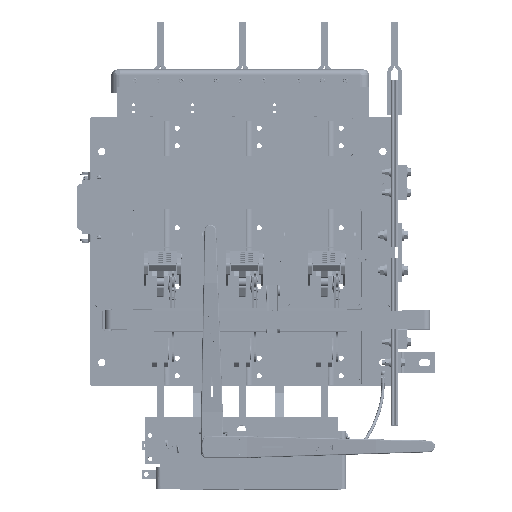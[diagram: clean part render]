
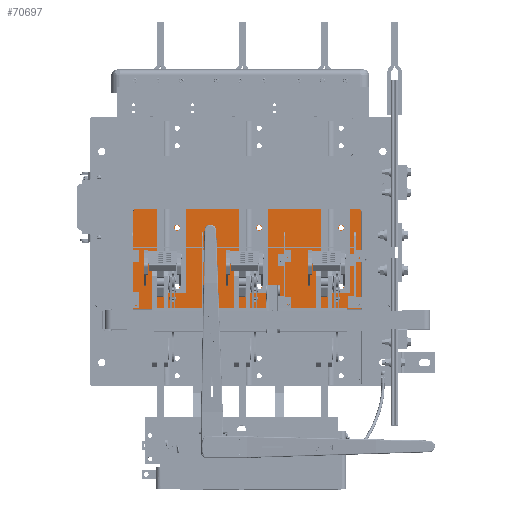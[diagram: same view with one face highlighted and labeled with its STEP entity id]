
A CAD part, top view. The second image highlights one B-rep face of the part: STEP entity #70697.
In plain terms, the highlighted planar face has unit normal (0, 0, 1).
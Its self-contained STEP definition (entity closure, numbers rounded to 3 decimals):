
#3090=FACE_BOUND('',#11374,.T.);
#3091=FACE_BOUND('',#11375,.T.);
#3092=FACE_BOUND('',#11376,.T.);
#3093=FACE_BOUND('',#11377,.T.);
#3094=FACE_BOUND('',#11378,.T.);
#3095=FACE_BOUND('',#11379,.T.);
#3096=FACE_BOUND('',#11380,.T.);
#3097=FACE_BOUND('',#11381,.T.);
#3098=FACE_BOUND('',#11382,.T.);
#3099=FACE_BOUND('',#11383,.T.);
#3100=FACE_BOUND('',#11384,.T.);
#3101=FACE_BOUND('',#11385,.T.);
#3102=FACE_BOUND('',#11386,.T.);
#3103=FACE_BOUND('',#11387,.T.);
#3104=FACE_BOUND('',#11388,.T.);
#3105=FACE_BOUND('',#11389,.T.);
#3106=FACE_BOUND('',#11390,.T.);
#4683=PLANE('',#77426);
#7194=FACE_OUTER_BOUND('',#11373,.T.);
#11373=EDGE_LOOP('',(#52726,#52727,#52728,#52729,#52730,#52731));
#11374=EDGE_LOOP('',(#52732));
#11375=EDGE_LOOP('',(#52733));
#11376=EDGE_LOOP('',(#52734));
#11377=EDGE_LOOP('',(#52735));
#11378=EDGE_LOOP('',(#52736));
#11379=EDGE_LOOP('',(#52737));
#11380=EDGE_LOOP('',(#52738));
#11381=EDGE_LOOP('',(#52739));
#11382=EDGE_LOOP('',(#52740));
#11383=EDGE_LOOP('',(#52741));
#11384=EDGE_LOOP('',(#52742));
#11385=EDGE_LOOP('',(#52743));
#11386=EDGE_LOOP('',(#52744));
#11387=EDGE_LOOP('',(#52745));
#11388=EDGE_LOOP('',(#52746));
#11389=EDGE_LOOP('',(#52747));
#11390=EDGE_LOOP('',(#52748));
#16319=CIRCLE('',#77209,0.07);
#16321=CIRCLE('',#77213,0.07);
#16323=CIRCLE('',#77217,0.07);
#16325=CIRCLE('',#77221,0.07);
#16327=CIRCLE('',#77225,0.07);
#16329=CIRCLE('',#77229,0.07);
#16331=CIRCLE('',#77233,0.07);
#16333=CIRCLE('',#77237,0.07);
#16337=CIRCLE('',#77245,0.219);
#16338=CIRCLE('',#77247,0.219);
#16339=CIRCLE('',#77249,0.219);
#16340=CIRCLE('',#77251,0.219);
#16341=CIRCLE('',#77253,0.219);
#16342=CIRCLE('',#77255,0.219);
#16343=CIRCLE('',#77257,0.219);
#16344=CIRCLE('',#77259,0.219);
#16345=CIRCLE('',#77261,0.219);
#16424=CIRCLE('',#77420,0.237);
#16425=CIRCLE('',#77425,0.237);
#20364=LINE('',#110155,#26223);
#20368=LINE('',#110164,#26227);
#20370=LINE('',#110168,#26229);
#20372=LINE('',#110172,#26231);
#26223=VECTOR('',#88579,0.394);
#26227=VECTOR('',#88589,0.394);
#26229=VECTOR('',#88593,0.394);
#26231=VECTOR('',#88597,0.394);
#32300=VERTEX_POINT('',#109696);
#32302=VERTEX_POINT('',#109703);
#32304=VERTEX_POINT('',#109710);
#32306=VERTEX_POINT('',#109717);
#32308=VERTEX_POINT('',#109724);
#32310=VERTEX_POINT('',#109731);
#32312=VERTEX_POINT('',#109738);
#32314=VERTEX_POINT('',#109745);
#32318=VERTEX_POINT('',#109759);
#32319=VERTEX_POINT('',#109763);
#32320=VERTEX_POINT('',#109767);
#32321=VERTEX_POINT('',#109771);
#32322=VERTEX_POINT('',#109775);
#32323=VERTEX_POINT('',#109779);
#32324=VERTEX_POINT('',#109783);
#32325=VERTEX_POINT('',#109787);
#32326=VERTEX_POINT('',#109791);
#32438=VERTEX_POINT('',#110153);
#32439=VERTEX_POINT('',#110154);
#32440=VERTEX_POINT('',#110159);
#32441=VERTEX_POINT('',#110163);
#32442=VERTEX_POINT('',#110167);
#32443=VERTEX_POINT('',#110171);
#39750=EDGE_CURVE('',#32300,#32300,#16319,.T.);
#39753=EDGE_CURVE('',#32302,#32302,#16321,.T.);
#39756=EDGE_CURVE('',#32304,#32304,#16323,.T.);
#39759=EDGE_CURVE('',#32306,#32306,#16325,.T.);
#39762=EDGE_CURVE('',#32308,#32308,#16327,.T.);
#39765=EDGE_CURVE('',#32310,#32310,#16329,.T.);
#39768=EDGE_CURVE('',#32312,#32312,#16331,.T.);
#39771=EDGE_CURVE('',#32314,#32314,#16333,.T.);
#39777=EDGE_CURVE('',#32318,#32318,#16337,.T.);
#39779=EDGE_CURVE('',#32319,#32319,#16338,.T.);
#39781=EDGE_CURVE('',#32320,#32320,#16339,.T.);
#39783=EDGE_CURVE('',#32321,#32321,#16340,.T.);
#39785=EDGE_CURVE('',#32322,#32322,#16341,.T.);
#39787=EDGE_CURVE('',#32323,#32323,#16342,.T.);
#39789=EDGE_CURVE('',#32324,#32324,#16343,.T.);
#39791=EDGE_CURVE('',#32325,#32325,#16344,.T.);
#39793=EDGE_CURVE('',#32326,#32326,#16345,.T.);
#39964=EDGE_CURVE('',#32438,#32439,#20364,.T.);
#39967=EDGE_CURVE('',#32439,#32440,#16424,.T.);
#39969=EDGE_CURVE('',#32440,#32441,#20368,.T.);
#39971=EDGE_CURVE('',#32441,#32442,#20370,.T.);
#39973=EDGE_CURVE('',#32442,#32443,#20372,.T.);
#39975=EDGE_CURVE('',#32443,#32438,#16425,.T.);
#52726=ORIENTED_EDGE('',*,*,#39964,.F.);
#52727=ORIENTED_EDGE('',*,*,#39975,.F.);
#52728=ORIENTED_EDGE('',*,*,#39973,.F.);
#52729=ORIENTED_EDGE('',*,*,#39971,.F.);
#52730=ORIENTED_EDGE('',*,*,#39969,.F.);
#52731=ORIENTED_EDGE('',*,*,#39967,.F.);
#52732=ORIENTED_EDGE('',*,*,#39750,.T.);
#52733=ORIENTED_EDGE('',*,*,#39753,.T.);
#52734=ORIENTED_EDGE('',*,*,#39756,.T.);
#52735=ORIENTED_EDGE('',*,*,#39759,.T.);
#52736=ORIENTED_EDGE('',*,*,#39762,.T.);
#52737=ORIENTED_EDGE('',*,*,#39765,.T.);
#52738=ORIENTED_EDGE('',*,*,#39768,.T.);
#52739=ORIENTED_EDGE('',*,*,#39771,.T.);
#52740=ORIENTED_EDGE('',*,*,#39777,.T.);
#52741=ORIENTED_EDGE('',*,*,#39779,.T.);
#52742=ORIENTED_EDGE('',*,*,#39781,.T.);
#52743=ORIENTED_EDGE('',*,*,#39783,.T.);
#52744=ORIENTED_EDGE('',*,*,#39785,.T.);
#52745=ORIENTED_EDGE('',*,*,#39787,.T.);
#52746=ORIENTED_EDGE('',*,*,#39789,.T.);
#52747=ORIENTED_EDGE('',*,*,#39791,.T.);
#52748=ORIENTED_EDGE('',*,*,#39793,.T.);
#70697=ADVANCED_FACE('',(#7194,#3090,#3091,#3092,#3093,#3094,#3095,#3096,
#3097,#3098,#3099,#3100,#3101,#3102,#3103,#3104,#3105,#3106),#4683,.T.);
#77209=AXIS2_PLACEMENT_3D('',#109697,#88050,#88051);
#77213=AXIS2_PLACEMENT_3D('',#109704,#88059,#88060);
#77217=AXIS2_PLACEMENT_3D('',#109711,#88068,#88069);
#77221=AXIS2_PLACEMENT_3D('',#109718,#88077,#88078);
#77225=AXIS2_PLACEMENT_3D('',#109725,#88086,#88087);
#77229=AXIS2_PLACEMENT_3D('',#109732,#88095,#88096);
#77233=AXIS2_PLACEMENT_3D('',#109739,#88104,#88105);
#77237=AXIS2_PLACEMENT_3D('',#109746,#88113,#88114);
#77245=AXIS2_PLACEMENT_3D('',#109760,#88131,#88132);
#77247=AXIS2_PLACEMENT_3D('',#109764,#88136,#88137);
#77249=AXIS2_PLACEMENT_3D('',#109768,#88141,#88142);
#77251=AXIS2_PLACEMENT_3D('',#109772,#88146,#88147);
#77253=AXIS2_PLACEMENT_3D('',#109776,#88151,#88152);
#77255=AXIS2_PLACEMENT_3D('',#109780,#88156,#88157);
#77257=AXIS2_PLACEMENT_3D('',#109784,#88161,#88162);
#77259=AXIS2_PLACEMENT_3D('',#109788,#88166,#88167);
#77261=AXIS2_PLACEMENT_3D('',#109792,#88171,#88172);
#77420=AXIS2_PLACEMENT_3D('',#110160,#88584,#88585);
#77425=AXIS2_PLACEMENT_3D('',#110175,#88601,#88602);
#77426=AXIS2_PLACEMENT_3D('',#110176,#88603,#88604);
#88050=DIRECTION('center_axis',(0.,0.,-1.));
#88051=DIRECTION('ref_axis',(-1.,0.,0.));
#88059=DIRECTION('center_axis',(0.,0.,-1.));
#88060=DIRECTION('ref_axis',(-1.,0.,0.));
#88068=DIRECTION('center_axis',(0.,0.,-1.));
#88069=DIRECTION('ref_axis',(-1.,0.,0.));
#88077=DIRECTION('center_axis',(0.,0.,-1.));
#88078=DIRECTION('ref_axis',(-1.,0.,0.));
#88086=DIRECTION('center_axis',(0.,0.,-1.));
#88087=DIRECTION('ref_axis',(-1.,0.,0.));
#88095=DIRECTION('center_axis',(0.,0.,-1.));
#88096=DIRECTION('ref_axis',(-1.,0.,0.));
#88104=DIRECTION('center_axis',(0.,0.,-1.));
#88105=DIRECTION('ref_axis',(-1.,0.,0.));
#88113=DIRECTION('center_axis',(0.,0.,-1.));
#88114=DIRECTION('ref_axis',(-1.,0.,0.));
#88131=DIRECTION('center_axis',(0.,0.,-1.));
#88132=DIRECTION('ref_axis',(-1.,0.,0.));
#88136=DIRECTION('center_axis',(0.,0.,-1.));
#88137=DIRECTION('ref_axis',(-1.,0.,0.));
#88141=DIRECTION('center_axis',(0.,0.,-1.));
#88142=DIRECTION('ref_axis',(-1.,0.,0.));
#88146=DIRECTION('center_axis',(0.,0.,-1.));
#88147=DIRECTION('ref_axis',(-1.,0.,0.));
#88151=DIRECTION('center_axis',(0.,0.,-1.));
#88152=DIRECTION('ref_axis',(-1.,0.,0.));
#88156=DIRECTION('center_axis',(0.,0.,-1.));
#88157=DIRECTION('ref_axis',(-1.,0.,0.));
#88161=DIRECTION('center_axis',(0.,0.,-1.));
#88162=DIRECTION('ref_axis',(-1.,0.,0.));
#88166=DIRECTION('center_axis',(0.,0.,-1.));
#88167=DIRECTION('ref_axis',(-1.,0.,0.));
#88171=DIRECTION('center_axis',(0.,0.,-1.));
#88172=DIRECTION('ref_axis',(-1.,0.,0.));
#88579=DIRECTION('',(1.,0.,0.));
#88584=DIRECTION('center_axis',(0.,0.,-1.));
#88585=DIRECTION('ref_axis',(-1.,0.,0.));
#88589=DIRECTION('',(0.,-1.,0.));
#88593=DIRECTION('',(-1.,0.,0.));
#88597=DIRECTION('',(0.,1.,0.));
#88601=DIRECTION('center_axis',(0.,0.,-1.));
#88602=DIRECTION('ref_axis',(0.,-1.,0.));
#88603=DIRECTION('center_axis',(0.,0.,1.));
#88604=DIRECTION('ref_axis',(1.,0.,0.));
#109696=CARTESIAN_POINT('',(38.758,-12.063,0.5));
#109697=CARTESIAN_POINT('Origin',(38.688,-12.063,0.5));
#109703=CARTESIAN_POINT('',(45.758,-12.063,0.5));
#109704=CARTESIAN_POINT('Origin',(45.688,-12.063,0.5));
#109710=CARTESIAN_POINT('',(51.758,-12.063,0.5));
#109711=CARTESIAN_POINT('Origin',(51.688,-12.063,0.5));
#109717=CARTESIAN_POINT('',(51.758,-16.063,0.5));
#109718=CARTESIAN_POINT('Origin',(51.688,-16.063,0.5));
#109724=CARTESIAN_POINT('',(45.758,-16.063,0.5));
#109725=CARTESIAN_POINT('Origin',(45.688,-16.063,0.5));
#109731=CARTESIAN_POINT('',(38.758,-16.063,0.5));
#109732=CARTESIAN_POINT('Origin',(38.688,-16.063,0.5));
#109738=CARTESIAN_POINT('',(32.758,-16.063,0.5));
#109739=CARTESIAN_POINT('Origin',(32.688,-16.063,0.5));
#109745=CARTESIAN_POINT('',(32.758,-12.063,0.5));
#109746=CARTESIAN_POINT('Origin',(32.688,-12.063,0.5));
#109759=CARTESIAN_POINT('',(50.406,-9.5,0.5));
#109760=CARTESIAN_POINT('Origin',(50.188,-9.5,0.5));
#109763=CARTESIAN_POINT('',(50.406,-12.,0.5));
#109764=CARTESIAN_POINT('Origin',(50.188,-12.,0.5));
#109767=CARTESIAN_POINT('',(50.406,-14.5,0.5));
#109768=CARTESIAN_POINT('Origin',(50.188,-14.5,0.5));
#109771=CARTESIAN_POINT('',(43.406,-9.5,0.5));
#109772=CARTESIAN_POINT('Origin',(43.188,-9.5,0.5));
#109775=CARTESIAN_POINT('',(43.406,-12.,0.5));
#109776=CARTESIAN_POINT('Origin',(43.188,-12.,0.5));
#109779=CARTESIAN_POINT('',(43.406,-14.5,0.5));
#109780=CARTESIAN_POINT('Origin',(43.188,-14.5,0.5));
#109783=CARTESIAN_POINT('',(36.406,-14.5,0.5));
#109784=CARTESIAN_POINT('Origin',(36.188,-14.5,0.5));
#109787=CARTESIAN_POINT('',(36.406,-12.,0.5));
#109788=CARTESIAN_POINT('Origin',(36.188,-12.,0.5));
#109791=CARTESIAN_POINT('',(36.406,-9.5,0.5));
#109792=CARTESIAN_POINT('Origin',(36.188,-9.5,0.5));
#110153=CARTESIAN_POINT('',(32.688,-7.888,0.5));
#110154=CARTESIAN_POINT('',(51.688,-7.888,0.5));
#110155=CARTESIAN_POINT('',(32.688,-7.888,0.5));
#110159=CARTESIAN_POINT('',(51.924,-8.125,0.5));
#110160=CARTESIAN_POINT('Origin',(51.688,-8.125,0.5));
#110163=CARTESIAN_POINT('',(51.924,-16.461,0.5));
#110164=CARTESIAN_POINT('',(51.924,-8.125,0.5));
#110167=CARTESIAN_POINT('',(32.451,-16.461,0.5));
#110168=CARTESIAN_POINT('',(51.938,-16.461,0.5));
#110171=CARTESIAN_POINT('',(32.451,-8.125,0.5));
#110172=CARTESIAN_POINT('',(32.451,-16.474,0.5));
#110175=CARTESIAN_POINT('Origin',(32.688,-8.125,0.5));
#110176=CARTESIAN_POINT('Origin',(42.188,-12.191,0.5));
